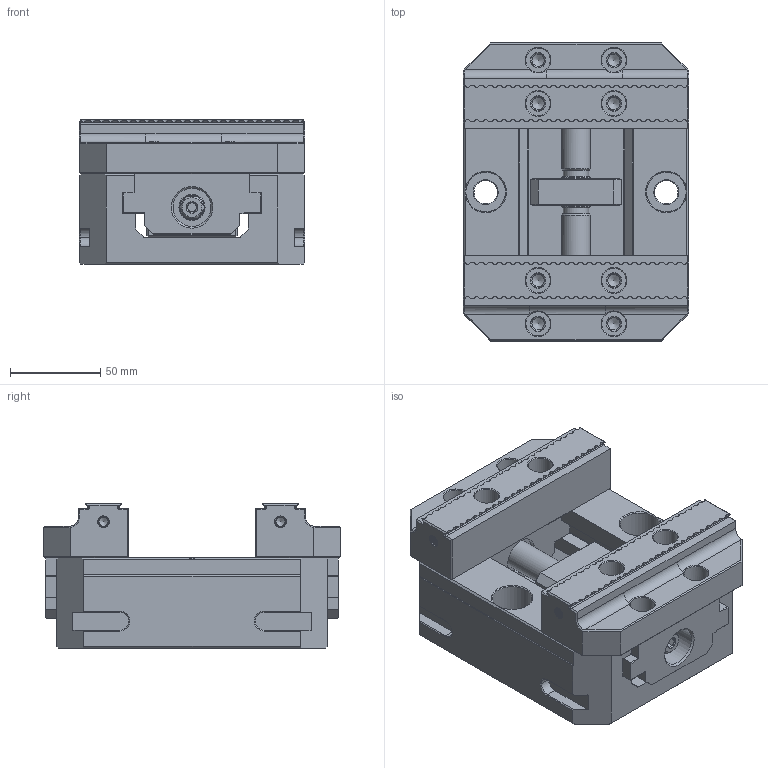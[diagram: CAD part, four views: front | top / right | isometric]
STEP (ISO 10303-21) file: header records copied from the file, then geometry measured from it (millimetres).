
FILE_DESCRIPTION(/* description */ (''),/* implementation_level */ '2;1');
FILE_NAME(/* name */ 'KSF125-150.stp',/* time_stamp */ '2024-12-17T17:21:00+08:00',/* author */ (''),/* organization */ (''),/* preprocessor_version */ 'ST-DEVELOPER v20',/* originating_system */ 'SIEMENS PLM Software NX2312.1700',/* authorisation */ '');
FILE_SCHEMA (('AP203_CONFIGURATION_CONTROLLED_3D_DESIGN_OF_MECHANICAL_PARTS_AND_ASSEMBLIES_MIM_LF { 1 0 10303 403 2 1 2}'));
Products named in the file (1): KSF125-150_objects
Bounding box: 125 x 165 x 80 mm (x, y, z)
Volume: 950029 mm3; surface area: 182349.4 mm2
Topology: 8 solids, 8 shells, 913 faces, 2469 edges, 1601 vertices
Faces by surface type: plane 414, cylinder 329, cone 118, bspline 50, torus 2
Full cylindrical faces by diameter (mm): 4.3 x2, 5 x2, 5.1 x32, 6 x8, 6.8 x8, 8.5 x44, 11 x2, 12 x3, 13 x2, 13.5 x10, 14 x2, 14.5 x2, 16 x8, 16.5 x1, 21 x4, 22 x2, 23 x1, 25 x2
Entity records: 52730 total; most frequent: CARTESIAN_POINT 31086, ORIENTED_EDGE 4036, DIRECTION 3935, EDGE_CURVE 2018, VERTEX_POINT 1389, AXIS2_PLACEMENT_3D 1374, LINE 1187, VECTOR 1187
